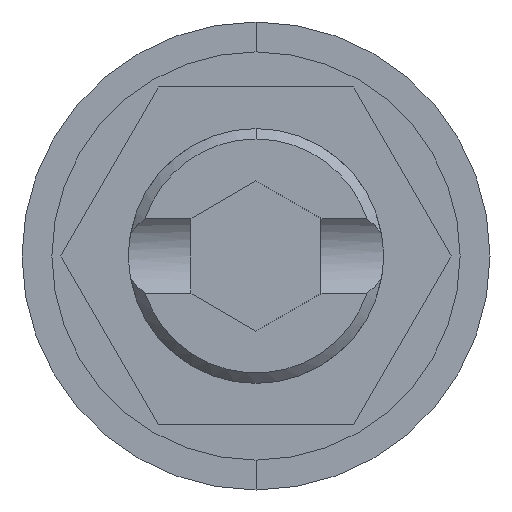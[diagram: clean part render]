
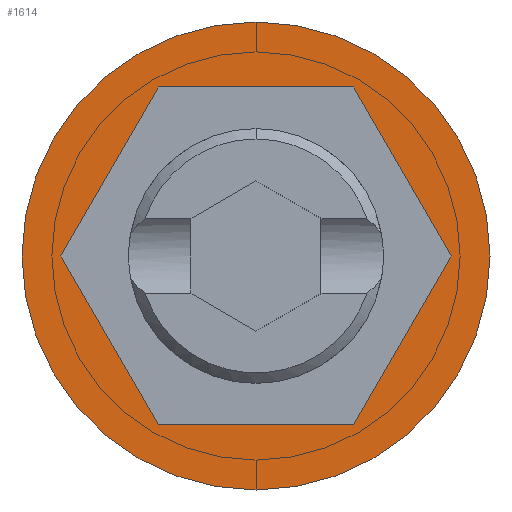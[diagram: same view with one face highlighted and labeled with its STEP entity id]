
A CAD part, front view. The second image highlights one B-rep face of the part: STEP entity #1614.
In plain terms, the highlighted planar face has unit normal (0, -1, 0).
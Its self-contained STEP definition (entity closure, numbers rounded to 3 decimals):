
#8 = DIRECTION ( 'NONE',  ( 0., -1., 0. ) ) ;
#13 = PLANE ( 'NONE',  #3282 ) ;
#83 = ORIENTED_EDGE ( 'NONE', *, *, #3951, .F. ) ;
#99 = LINE ( 'NONE', #2125, #2864 ) ;
#474 = ORIENTED_EDGE ( 'NONE', *, *, #3714, .T. ) ;
#575 = VECTOR ( 'NONE', #2730, 1000. ) ;
#588 = CARTESIAN_POINT ( 'NONE',  ( 3.753, 0., 0. ) ) ;
#660 = VERTEX_POINT ( 'NONE', #4681 ) ;
#665 = DIRECTION ( 'NONE',  ( -1., 0., 0. ) ) ;
#673 = LINE ( 'NONE', #4426, #3575 ) ;
#695 = CARTESIAN_POINT ( 'NONE',  ( 3.753, 0., 0. ) ) ;
#706 = VERTEX_POINT ( 'NONE', #3508 ) ;
#771 = DIRECTION ( 'NONE',  ( 0., -1., 0. ) ) ;
#1091 = VECTOR ( 'NONE', #2251, 1000. ) ;
#1236 = ORIENTED_EDGE ( 'NONE', *, *, #3364, .F. ) ;
#1283 = VECTOR ( 'NONE', #2953, 1000. ) ;
#1312 = ORIENTED_EDGE ( 'NONE', *, *, #1724, .F. ) ;
#1351 = FACE_BOUND ( 'NONE', #1560, .T. ) ;
#1366 = CARTESIAN_POINT ( 'NONE',  ( 0., 0., 0. ) ) ;
#1461 = FACE_OUTER_BOUND ( 'NONE', #2798, .T. ) ;
#1499 = VERTEX_POINT ( 'NONE', #2828 ) ;
#1536 = AXIS2_PLACEMENT_3D ( 'NONE', #1366, #3991, #1743 ) ;
#1560 = EDGE_LOOP ( 'NONE', ( #4099, #2366, #1312, #1236, #3414, #83 ) ) ;
#1614 = ADVANCED_FACE ( 'NONE', ( #1351, #1461 ), #13, .T. ) ;
#1724 = EDGE_CURVE ( 'NONE', #4319, #3827, #99, .T. ) ;
#1743 = DIRECTION ( 'NONE',  ( 0., 0., -1. ) ) ;
#1900 = CARTESIAN_POINT ( 'NONE',  ( 0., 0., 0. ) ) ;
#1911 = CARTESIAN_POINT ( 'NONE',  ( -3.753, 0., 0. ) ) ;
#1969 = VERTEX_POINT ( 'NONE', #3641 ) ;
#2107 = CIRCLE ( 'NONE', #3631, 4.5 ) ;
#2125 = CARTESIAN_POINT ( 'NONE',  ( -1.876, 0., 3.25 ) ) ;
#2201 = EDGE_CURVE ( 'NONE', #4673, #660, #2276, .T. ) ;
#2251 = DIRECTION ( 'NONE',  ( 0.5, 0., -0.866 ) ) ;
#2268 = CARTESIAN_POINT ( 'NONE',  ( 0., 0., 0. ) ) ;
#2276 = LINE ( 'NONE', #695, #1283 ) ;
#2366 = ORIENTED_EDGE ( 'NONE', *, *, #3688, .F. ) ;
#2626 = CARTESIAN_POINT ( 'NONE',  ( -3.753, 0., 0. ) ) ;
#2651 = DIRECTION ( 'NONE',  ( 0., 0., -1. ) ) ;
#2730 = DIRECTION ( 'NONE',  ( 1., 0., 0. ) ) ;
#2751 = CARTESIAN_POINT ( 'NONE',  ( -1.876, 0., -3.25 ) ) ;
#2754 = VECTOR ( 'NONE', #3805, 1000. ) ;
#2798 = EDGE_LOOP ( 'NONE', ( #474, #4171 ) ) ;
#2828 = CARTESIAN_POINT ( 'NONE',  ( 0., 0., -4.5 ) ) ;
#2864 = VECTOR ( 'NONE', #4730, 1000. ) ;
#2953 = DIRECTION ( 'NONE',  ( -0.5, 0., 0.866 ) ) ;
#3205 = VERTEX_POINT ( 'NONE', #4015 ) ;
#3282 = AXIS2_PLACEMENT_3D ( 'NONE', #1900, #771, #3412 ) ;
#3364 = EDGE_CURVE ( 'NONE', #660, #4319, #673, .T. ) ;
#3412 = DIRECTION ( 'NONE',  ( 0., 0., -1. ) ) ;
#3414 = ORIENTED_EDGE ( 'NONE', *, *, #2201, .F. ) ;
#3436 = CARTESIAN_POINT ( 'NONE',  ( 1.876, 0., -3.25 ) ) ;
#3461 = LINE ( 'NONE', #2751, #575 ) ;
#3508 = CARTESIAN_POINT ( 'NONE',  ( 0., 0., 4.5 ) ) ;
#3527 = CARTESIAN_POINT ( 'NONE',  ( -1.876, 0., 3.25 ) ) ;
#3575 = VECTOR ( 'NONE', #665, 1000. ) ;
#3625 = CIRCLE ( 'NONE', #1536, 4.5 ) ;
#3631 = AXIS2_PLACEMENT_3D ( 'NONE', #2268, #8, #2651 ) ;
#3641 = CARTESIAN_POINT ( 'NONE',  ( -1.876, 0., -3.25 ) ) ;
#3688 = EDGE_CURVE ( 'NONE', #3827, #1969, #4091, .T. ) ;
#3714 = EDGE_CURVE ( 'NONE', #1499, #706, #2107, .T. ) ;
#3805 = DIRECTION ( 'NONE',  ( 0.5, 0., 0.866 ) ) ;
#3827 = VERTEX_POINT ( 'NONE', #1911 ) ;
#3951 = EDGE_CURVE ( 'NONE', #3205, #4673, #4837, .T. ) ;
#3991 = DIRECTION ( 'NONE',  ( 0., -1., 0. ) ) ;
#4015 = CARTESIAN_POINT ( 'NONE',  ( 1.876, 0., -3.25 ) ) ;
#4091 = LINE ( 'NONE', #2626, #1091 ) ;
#4099 = ORIENTED_EDGE ( 'NONE', *, *, #4193, .F. ) ;
#4171 = ORIENTED_EDGE ( 'NONE', *, *, #4738, .T. ) ;
#4193 = EDGE_CURVE ( 'NONE', #1969, #3205, #3461, .T. ) ;
#4319 = VERTEX_POINT ( 'NONE', #3527 ) ;
#4426 = CARTESIAN_POINT ( 'NONE',  ( 1.876, 0., 3.25 ) ) ;
#4673 = VERTEX_POINT ( 'NONE', #588 ) ;
#4681 = CARTESIAN_POINT ( 'NONE',  ( 1.876, 0., 3.25 ) ) ;
#4730 = DIRECTION ( 'NONE',  ( -0.5, 0., -0.866 ) ) ;
#4738 = EDGE_CURVE ( 'NONE', #706, #1499, #3625, .T. ) ;
#4837 = LINE ( 'NONE', #3436, #2754 ) ;
